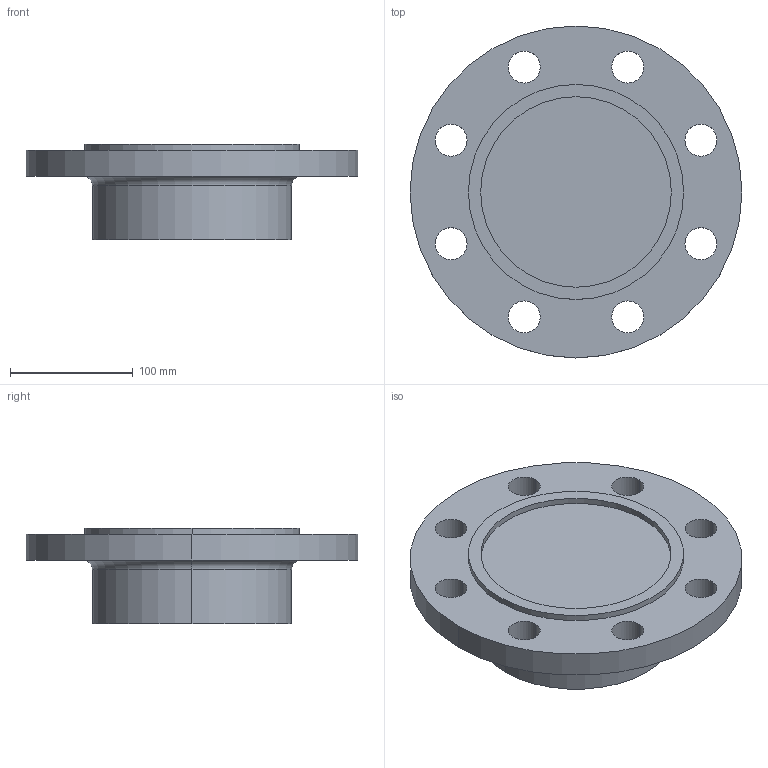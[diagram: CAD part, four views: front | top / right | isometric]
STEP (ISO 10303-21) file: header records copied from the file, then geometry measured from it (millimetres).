
FILE_DESCRIPTION (( 'STEP AP214' ), '1' );
FILE_NAME ('PN40 DN125 Type 21(i) - Type C Face.STEP', '2019-01-02T01:22:30', ( '' ), ( '' ), 'SwSTEP 2.0', 'SolidWorks 2019', '' );
FILE_SCHEMA (( 'AUTOMOTIVE_DESIGN' ));
Length unit declared in the file: millimetre
Products named in the file (1): PN40 DN125 Type 21(i) - Type C Face
Bounding box: 270 x 270 x 78 mm (x, y, z)
Volume: 2218055.8 mm3; surface area: 167480.9 mm2
Topology: 1 solids, 1 shells, 31 faces, 76 edges, 50 vertices
Faces by surface type: cylinder 24, plane 5, torus 2
Entity records: 1012 total; most frequent: DIRECTION 192, CARTESIAN_POINT 158, ORIENTED_EDGE 152, AXIS2_PLACEMENT_3D 84, EDGE_CURVE 76, CIRCLE 52, VERTEX_POINT 50, EDGE_LOOP 50
